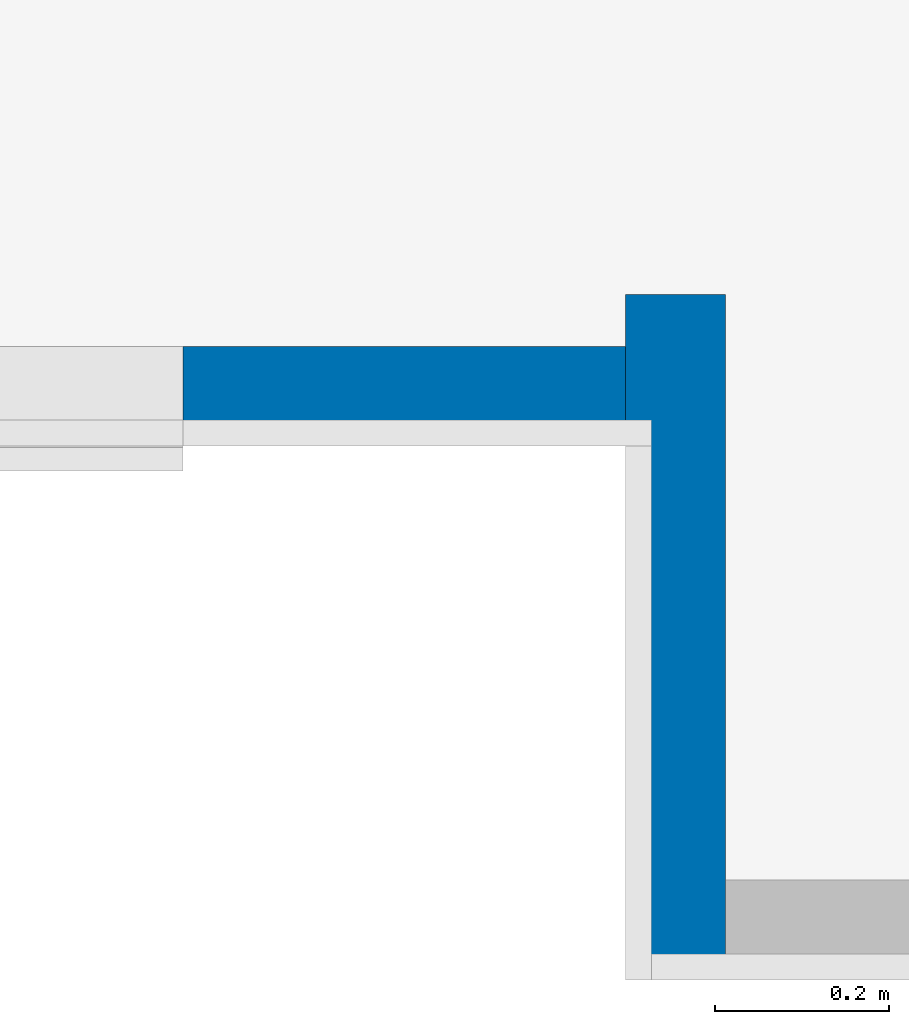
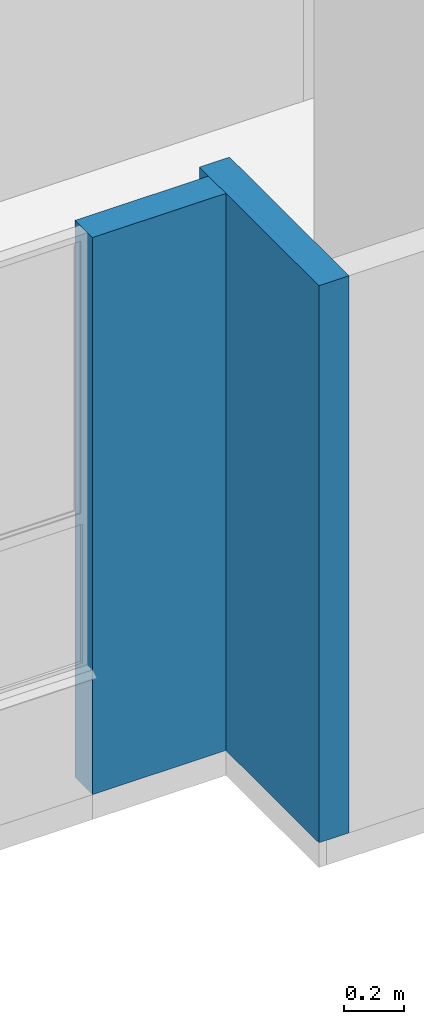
# One storey, part 10 of 48: 2 walls.
"""IFC4 building model written with IfcOpenShell, lengths in metres."""

from ifc_helpers import new_model, entity, si_unit, converted_unit, derived_unit, direction, frame, origin, place, context, subcontext, project, spatial, indexed_curve, outline, extrude, material, type_object, element, save


model = new_model("IFC4")

# Units and contexts
model_context = context("Model", 3, precision=1e-05, world=origin(), true_north=direction((6.123031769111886e-17, 1.0)))
body_context = subcontext(model_context, "Body", "Model", "MODEL_VIEW")
ifc_project = project(units=[si_unit("LENGTHUNIT", "METRE"), si_unit("AREAUNIT", "SQUARE_METRE"), si_unit("VOLUMEUNIT", "CUBIC_METRE"), converted_unit("PLANEANGLEUNIT", "DEGREE", entity("IfcRatioMeasure", 0.017453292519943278), si_unit("PLANEANGLEUNIT", "RADIAN"), dimensions=[0, 0, 0, 0, 0, 0, 0]), si_unit("MASSUNIT", "GRAM", prefix="KILO"), derived_unit("MASSDENSITYUNIT", [(si_unit("MASSUNIT", "GRAM", prefix="KILO"), 1), (si_unit("LENGTHUNIT", "METRE"), -3)]), derived_unit("IONCONCENTRATIONUNIT", [(si_unit("MASSUNIT", "GRAM", prefix="KILO"), 1), (si_unit("LENGTHUNIT", "METRE"), -3)]), derived_unit("MOMENTOFINERTIAUNIT", [(si_unit("LENGTHUNIT", "METRE"), 4)]), si_unit("TIMEUNIT", "SECOND"), si_unit("FREQUENCYUNIT", "HERTZ"), si_unit("THERMODYNAMICTEMPERATUREUNIT", "DEGREE_CELSIUS"), derived_unit("THERMALTRANSMITTANCEUNIT", [(si_unit("MASSUNIT", "GRAM", prefix="KILO"), 1), (si_unit("THERMODYNAMICTEMPERATUREUNIT", "KELVIN"), -1), (si_unit("TIMEUNIT", "SECOND"), -3)]), derived_unit("THERMALCONDUCTANCEUNIT", [(si_unit("MASSUNIT", "GRAM", prefix="KILO"), 1), (si_unit("THERMODYNAMICTEMPERATUREUNIT", "KELVIN"), -1), (si_unit("TIMEUNIT", "SECOND"), -3), (si_unit("LENGTHUNIT", "METRE"), 1)]), derived_unit("VOLUMETRICFLOWRATEUNIT", [(si_unit("LENGTHUNIT", "METRE"), 3), (si_unit("TIMEUNIT", "SECOND"), -1)]), derived_unit("MASSFLOWRATEUNIT", [(si_unit("MASSUNIT", "GRAM", prefix="KILO"), 1), (si_unit("TIMEUNIT", "SECOND"), -1)]), derived_unit("ROTATIONALFREQUENCYUNIT", [(si_unit("TIMEUNIT", "SECOND"), -1)]), si_unit("ELECTRICCURRENTUNIT", "AMPERE"), si_unit("ELECTRICVOLTAGEUNIT", "VOLT"), si_unit("POWERUNIT", "WATT"), si_unit("FORCEUNIT", "NEWTON", prefix="KILO"), si_unit("ILLUMINANCEUNIT", "LUX"), si_unit("LUMINOUSFLUXUNIT", "LUMEN"), si_unit("LUMINOUSINTENSITYUNIT", "CANDELA"), derived_unit("USERDEFINED", [(si_unit("MASSUNIT", "GRAM", prefix="KILO"), -1), (si_unit("LENGTHUNIT", "METRE"), -2), (si_unit("TIMEUNIT", "SECOND"), 3), (si_unit("LUMINOUSFLUXUNIT", "LUMEN"), 1)]), derived_unit("USERDEFINED", [(si_unit("MASSUNIT", "GRAM", prefix="KILO"), 1), (si_unit("TIMEUNIT", "SECOND"), -3), (si_unit("LENGTHUNIT", "METRE"), 3), (si_unit("ELECTRICCURRENTUNIT", "AMPERE"), -2)]), derived_unit("SOUNDPOWERUNIT", [(si_unit("MASSUNIT", "GRAM", prefix="KILO"), 1), (si_unit("TIMEUNIT", "SECOND"), -3), (si_unit("LENGTHUNIT", "METRE"), 2)]), derived_unit("SOUNDPRESSUREUNIT", [(si_unit("MASSUNIT", "GRAM", prefix="KILO"), 1), (si_unit("LENGTHUNIT", "METRE"), -1), (si_unit("TIMEUNIT", "SECOND"), -2)]), derived_unit("LINEARVELOCITYUNIT", [(si_unit("LENGTHUNIT", "METRE"), 1), (si_unit("TIMEUNIT", "SECOND"), -1)]), si_unit("PRESSUREUNIT", "PASCAL"), derived_unit("USERDEFINED", [(si_unit("MASSUNIT", "GRAM", prefix="KILO"), 1), (si_unit("LENGTHUNIT", "METRE"), -2), (si_unit("TIMEUNIT", "SECOND"), -2)]), derived_unit("LINEARFORCEUNIT", [(si_unit("MASSUNIT", "GRAM", prefix="KILO"), 1), (si_unit("TIMEUNIT", "SECOND"), -2)]), derived_unit("PLANARFORCEUNIT", [(si_unit("MASSUNIT", "GRAM", prefix="KILO"), 1), (si_unit("LENGTHUNIT", "METRE"), -1), (si_unit("TIMEUNIT", "SECOND"), -2)]), derived_unit("SPECIFICHEATCAPACITYUNIT", [(si_unit("THERMODYNAMICTEMPERATUREUNIT", "KELVIN"), -1), (si_unit("LENGTHUNIT", "METRE"), 2), (si_unit("TIMEUNIT", "SECOND"), -2)]), derived_unit("HEATINGVALUEUNIT", [(si_unit("LENGTHUNIT", "METRE"), 2), (si_unit("TIMEUNIT", "SECOND"), -2)]), derived_unit("VAPORPERMEABILITYUNIT", [(si_unit("LENGTHUNIT", "METRE"), -1), (si_unit("TIMEUNIT", "SECOND"), 1)]), derived_unit("DYNAMICVISCOSITYUNIT", [(si_unit("MASSUNIT", "GRAM", prefix="KILO"), 1), (si_unit("TIMEUNIT", "SECOND"), -1), (si_unit("LENGTHUNIT", "METRE"), -1)]), derived_unit("THERMALEXPANSIONCOEFFICIENTUNIT", [(si_unit("THERMODYNAMICTEMPERATUREUNIT", "KELVIN"), -1)]), derived_unit("MODULUSOFELASTICITYUNIT", [(si_unit("MASSUNIT", "GRAM", prefix="KILO"), 1), (si_unit("LENGTHUNIT", "METRE"), -1), (si_unit("TIMEUNIT", "SECOND"), -2)]), derived_unit("ISOTHERMALMOISTURECAPACITYUNIT", [(si_unit("LENGTHUNIT", "METRE"), 3), (si_unit("MASSUNIT", "GRAM", prefix="KILO"), -1)]), derived_unit("MOISTUREDIFFUSIVITYUNIT", [(si_unit("TIMEUNIT", "SECOND"), -1), (si_unit("LENGTHUNIT", "METRE"), 2)])], contexts=[model_context])

# Site, building, storey
site_placement = place(None, origin())
site = spatial("IfcSite", under=ifc_project, at=site_placement, Name="Default", CompositionType="ELEMENT")
building_placement = place(site_placement, origin())
building = spatial("IfcBuilding", under=site, at=building_placement, CompositionType="ELEMENT")
storey_placement = place(building_placement, frame((0.0, 0.0, 7.050000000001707)))
storey = spatial("IfcBuildingStorey", under=building, at=storey_placement, Name="Nivel 4", CompositionType="ELEMENT", Elevation=7.050000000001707)

# Walls
ifc_material_1 = material(Name="Ladrillo claro (Aire)", Category="Materials")
wall_type_1 = type_object("IfcWallType", Name="Basic Wall:B2010 - 0.115m - Muro exterior en mampostería - Ladrillo", PredefinedType="STANDARD")
wall_1_placement = place(storey_placement, frame((12.520000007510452, -12.870000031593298, 0.0), z_axis=(0.0, 0.0, 1.0), x_axis=(0.0, 1.0, 0.0)))
element("IfcWall", 1, at=wall_1_placement, inside=storey, type_object=wall_type_1, material=ifc_material_1, Name="Basic Wall:B2010 - 0.115m - Muro exterior en mampostería - Ladrillo", ObjectType="Basic Wall:B2010 - 0.115m - Muro exterior en mampostería - Ladrillo", PredefinedType="NOTDEFINED", context=body_context, shape_type="SweptSolid", body=[
    extrude(outline(indexed_curve([(0.7899180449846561, 0.057499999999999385), (-1.1815459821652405e-16, 0.057499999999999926), (1.1815459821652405e-16, -0.057499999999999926), (0.7899180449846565, -0.05750000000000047), (0.7899180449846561, 0.057499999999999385)], self_intersect=False)), origin(), (0.0, 0.0, 1.0), 2.2500000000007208),
])
ifc_material_2 = material(Name="LADRILLO CLARO", Category="Materials")
wall_type_2 = type_object("IfcWallType", Name="Basic Wall:B2010 - 0.115m - ME mampostería no estructural - Ladrillo", PredefinedType="STANDARD")
wall_2_placement = place(storey_placement, frame((12.462500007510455, -12.197500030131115, 0.0), z_axis=(0.0, 0.0, 1.0), x_axis=(-1.0, 0.0, 0.0)))
element("IfcWall", 2, at=wall_2_placement, inside=storey, type_object=wall_type_2, material=ifc_material_2, Name="Basic Wall:B2010 - 0.115m - ME mampostería no estructural - Ladrillo", ObjectType="Basic Wall:B2010 - 0.115m - ME mampostería no estructural - Ladrillo", PredefinedType="NOTDEFINED", context=body_context, shape_type="SweptSolid", body=[
    extrude(outline(indexed_curve([(0.5100000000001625, 0.05749999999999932), (-8.767403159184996e-16, 0.057499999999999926), (8.767403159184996e-16, -0.057499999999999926), (0.5100000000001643, -0.05750000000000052), (0.5100000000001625, 0.05749999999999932)], self_intersect=False)), origin(), (0.0, 0.0, 1.0), 2.2500000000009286),
])

save(model, "model.ifc")
